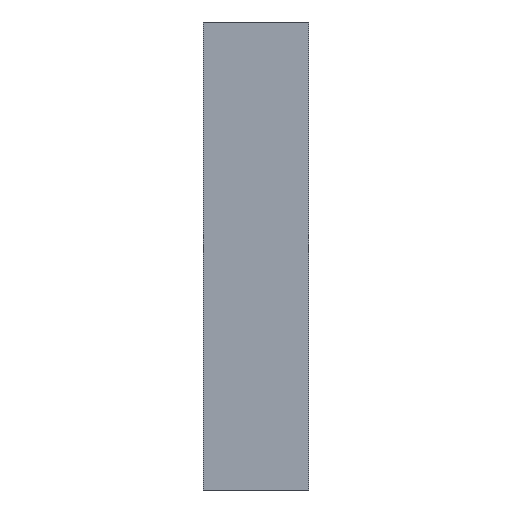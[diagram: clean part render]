
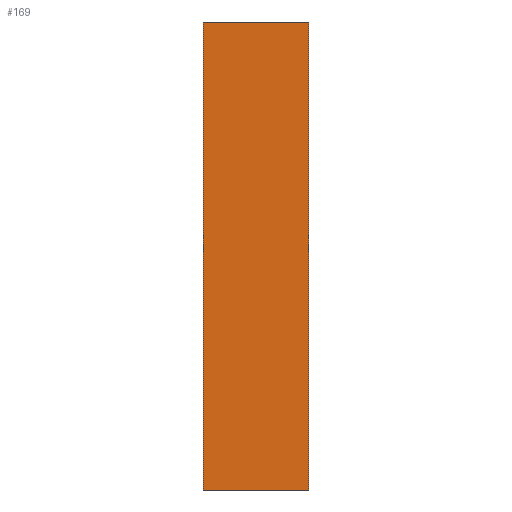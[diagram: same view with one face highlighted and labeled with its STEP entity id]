
A CAD part, left-side view. The second image highlights one B-rep face of the part: STEP entity #169.
In plain terms, the highlighted planar face has unit normal (-1, 0, 0).
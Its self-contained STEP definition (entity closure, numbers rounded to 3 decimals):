
#113=CARTESIAN_POINT('',(-30.,-42.,200.0));
#114=VERTEX_POINT('',#113);
#121=CARTESIAN_POINT('',(-30.,-42.,0.0));
#122=VERTEX_POINT('',#121);
#123=CARTESIAN_POINT('',(-30.,-42.,0.0));
#124=DIRECTION('',(0.0,0.0,1.0));
#125=VECTOR('',#124,200.0);
#126=LINE('',#123,#125);
#127=EDGE_CURVE('',#122,#114,#126,.T.);
#139=CARTESIAN_POINT('',(-30.,-42.,0.0));
#140=DIRECTION('',(-1.0,0.0,0.0));
#141=DIRECTION('',(0.0,0.0,1.0));
#142=AXIS2_PLACEMENT_3D('',#139,#140,#141);
#143=PLANE('',#142);
#144=CARTESIAN_POINT('',(-30.0,3.,200.0));
#145=VERTEX_POINT('',#144);
#146=CARTESIAN_POINT('',(-30.,-42.,200.0));
#147=DIRECTION('',(0.0,1.0,0.0));
#148=VECTOR('',#147,45.0);
#149=LINE('',#146,#148);
#150=EDGE_CURVE('',#114,#145,#149,.T.);
#151=ORIENTED_EDGE('',*,*,#150,.T.);
#152=CARTESIAN_POINT('',(-30.0,3.,0.0));
#153=VERTEX_POINT('',#152);
#154=CARTESIAN_POINT('',(-30.0,3.,0.0));
#155=DIRECTION('',(0.0,0.0,1.0));
#156=VECTOR('',#155,200.0);
#157=LINE('',#154,#156);
#158=EDGE_CURVE('',#153,#145,#157,.T.);
#159=ORIENTED_EDGE('',*,*,#158,.F.);
#160=CARTESIAN_POINT('',(-30.,-42.,0.0));
#161=DIRECTION('',(0.0,1.0,0.0));
#162=VECTOR('',#161,45.0);
#163=LINE('',#160,#162);
#164=EDGE_CURVE('',#122,#153,#163,.T.);
#165=ORIENTED_EDGE('',*,*,#164,.F.);
#166=ORIENTED_EDGE('',*,*,#127,.T.);
#167=EDGE_LOOP('',(#151,#159,#165,#166));
#168=FACE_OUTER_BOUND('',#167,.T.);
#169=ADVANCED_FACE('',(#168),#143,.T.);
